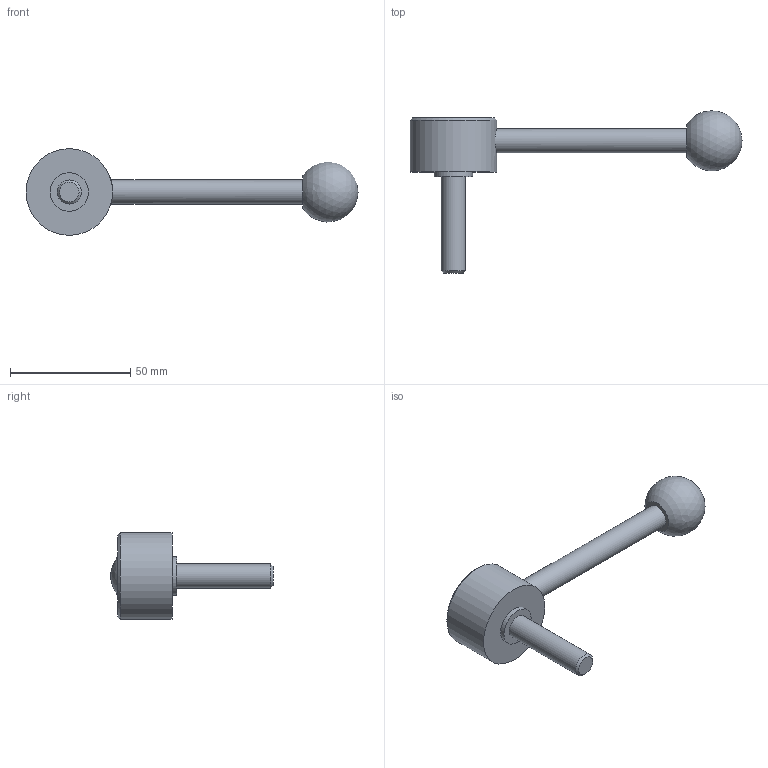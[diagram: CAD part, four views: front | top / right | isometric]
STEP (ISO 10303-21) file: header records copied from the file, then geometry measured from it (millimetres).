
FILE_DESCRIPTION( ( 'STEP AP203' ), '1' );
FILE_NAME( 'C:/Temp/Ganter_Step_05_03_2020/data/2_1/gn_125/gn_125_ms/gn_125_ms_d/Flat Adjustable Lever GN 125-36-M10-40-D.stp', '2020-03-05T11:00:48', ( 'License CC BY-ND 4.0' ), ( 'CADENAS' ), ' ', 'PARTsolutions', ' ' );
FILE_SCHEMA( ( 'CONFIG_CONTROL_DESIGN' ) );
Length unit declared in the file: millimetre
Products named in the file (1): _Flat Adjustable Lever GN 125-36-M10-40-D
Bounding box: 138 x 67.38 x 36 mm (x, y, z)
Volume: 40495.3 mm3; surface area: 10158.3 mm2
Topology: 1 solids, 1 shells, 14 faces, 23 edges, 15 vertices
Faces by surface type: plane 6, cylinder 5, cone 2, sphere 1
Full cylindrical faces by diameter (mm): 10 x2, 16 x1, 26 x1, 36 x1
Entity records: 392 total; most frequent: CARTESIAN_POINT 115, DIRECTION 54, AXIS2_PLACEMENT_3D 27, EDGE_LOOP 26, ORIENTED_EDGE 26, FACE_OUTER_BOUND 19, ADVANCED_FACE 14, VERTEX_POINT 14
